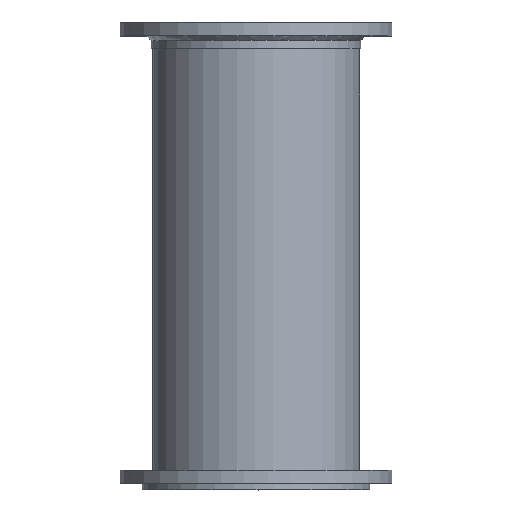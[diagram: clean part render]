
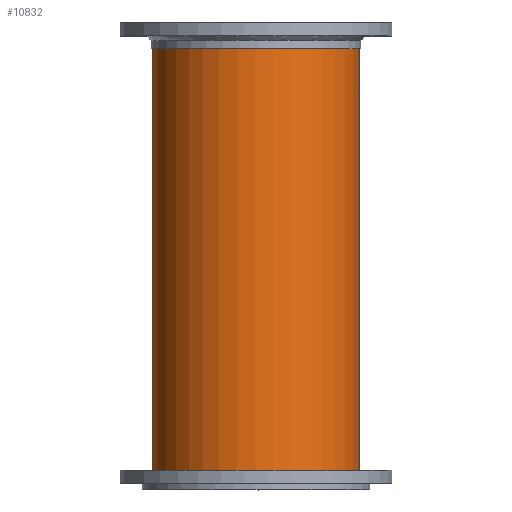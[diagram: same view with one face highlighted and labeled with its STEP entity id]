
A CAD part, top view. The second image highlights one B-rep face of the part: STEP entity #10832.
In plain terms, the highlighted cylindrical face has radius 202.438 mm (diameter 404.876 mm), a full revolution.
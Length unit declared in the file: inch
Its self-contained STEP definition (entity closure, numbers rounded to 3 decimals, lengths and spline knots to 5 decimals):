
#10805=CARTESIAN_POINT('',(0.0,0.0,0.0));
#10806=DIRECTION('',(0.0,0.0,1.0));
#10807=DIRECTION('',(-1.0,0.0,0.0));
#10808=AXIS2_PLACEMENT_3D('',#10805,#10806,#10807);
#10809=CYLINDRICAL_SURFACE('',#10808,7.97);
#10810=CARTESIAN_POINT('',(7.97,0.,34.5));
#10811=VERTEX_POINT('',#10810);
#10812=CARTESIAN_POINT('',(0.0,0.0,34.5));
#10813=DIRECTION('',(0.0,0.0,-1.0));
#10814=DIRECTION('',(-1.0,0.0,0.0));
#10815=AXIS2_PLACEMENT_3D('',#10812,#10813,#10814);
#10816=CIRCLE('',#10815,7.97);
#10817=EDGE_CURVE('',#10811,#10811,#10816,.T.);
#10818=ORIENTED_EDGE('',*,*,#10817,.T.);
#10819=EDGE_LOOP('',(#10818));
#10820=FACE_OUTER_BOUND('',#10819,.T.);
#10821=CARTESIAN_POINT('',(7.97,0.,0.0));
#10822=VERTEX_POINT('',#10821);
#10823=CARTESIAN_POINT('',(0.0,0.0,0.0));
#10824=DIRECTION('',(0.0,0.0,-1.0));
#10825=DIRECTION('',(-1.0,0.0,0.0));
#10826=AXIS2_PLACEMENT_3D('',#10823,#10824,#10825);
#10827=CIRCLE('',#10826,7.97);
#10828=EDGE_CURVE('',#10822,#10822,#10827,.T.);
#10829=ORIENTED_EDGE('',*,*,#10828,.F.);
#10830=EDGE_LOOP('',(#10829));
#10831=FACE_BOUND('',#10830,.T.);
#10832=ADVANCED_FACE('',(#10820,#10831),#10809,.T.);
